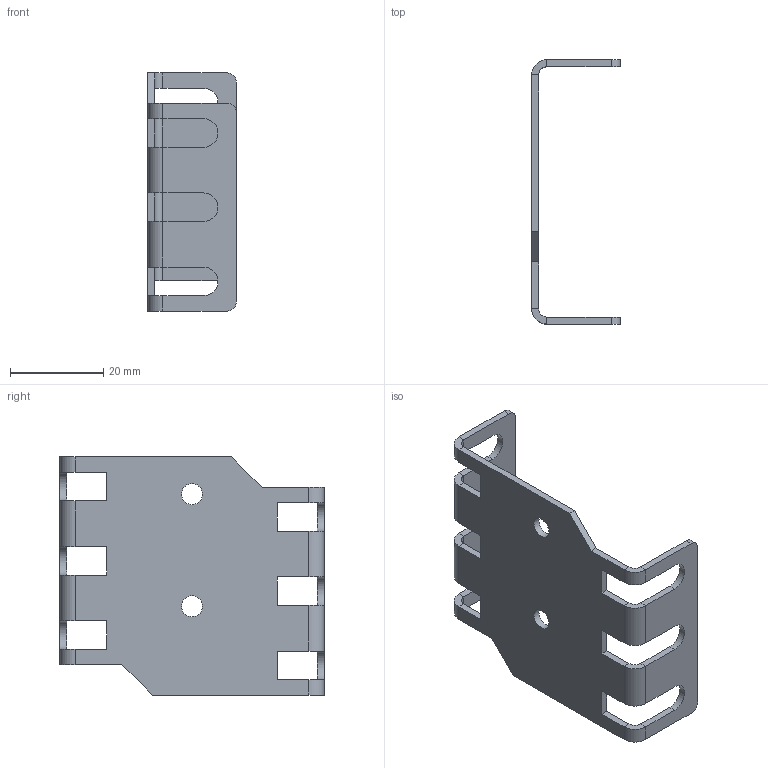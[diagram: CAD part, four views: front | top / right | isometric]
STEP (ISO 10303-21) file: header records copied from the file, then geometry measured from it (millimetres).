
FILE_DESCRIPTION(/* description */ ('STEP AP242 Edition 2','CAx-IF Rec.Pracs.---Representation and Presentation of Product Manufacturing Information (PMI)---4.0---2014-10-13','CAx-IF Rec.Pracs.---3D Tessellated Geometry---0.4---2014-09-14','2;1','CAx-IF Rec.Pracs.---User Defined Attributes---1.5---2016-08-15'),/* implementation_level */ '2;1');
FILE_NAME(/* name */ 'Part Studio 1 - RightFront-LeftRear',/* time_stamp */ '2026-05-25T22:09:06Z',/* author */ (''),/* organization */ (''),/* preprocessor_version */ 'ST-DEVELOPER v20',/* originating_system */ 'ONSHAPE BY PTC INC, 1.215',/* authorisation */ ' ');
FILE_SCHEMA (('AP242_MANAGED_MODEL_BASED_3D_ENGINEERING_MIM_LF { 1 0 10303 442 3 1 4 }'));
Length unit declared in the file: metre
Products named in the file (1): RightFront-LeftRear
Bounding box: 19 x 56.56 x 50.95 mm (x, y, z)
Volume: 4938.7 mm3; surface area: 7522.4 mm2
Topology: 1 solids, 1 shells, 92 faces, 244 edges, 142 vertices
Faces by surface type: plane 64, cylinder 28
Full cylindrical faces by diameter (mm): 4.5 x2
Entity records: 2794 total; most frequent: DIRECTION 482, ORIENTED_EDGE 480, CARTESIAN_POINT 473, EDGE_CURVE 240, LINE 184, VECTOR 184, AXIS2_PLACEMENT_3D 149, VERTEX_POINT 140
